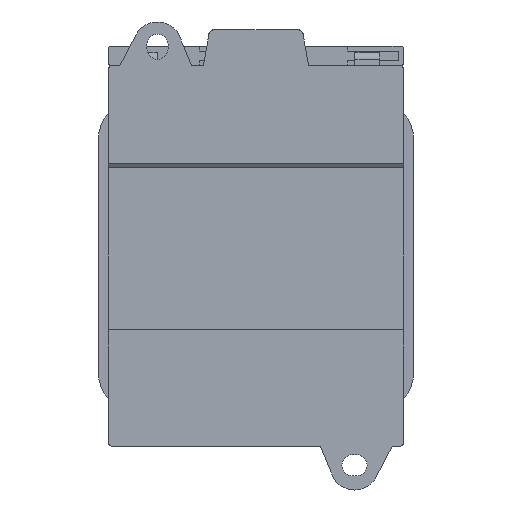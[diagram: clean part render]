
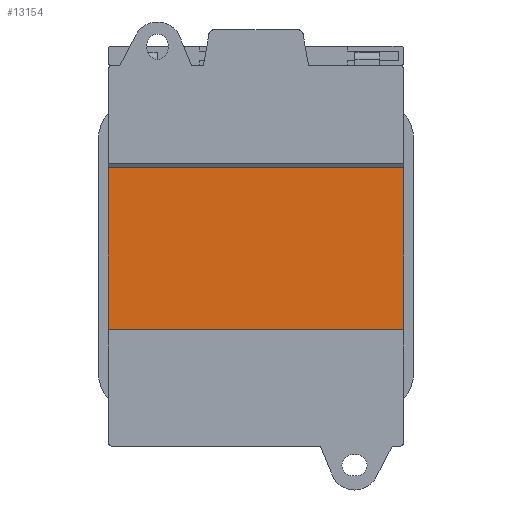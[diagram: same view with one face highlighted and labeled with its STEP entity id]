
A CAD part, front view. The second image highlights one B-rep face of the part: STEP entity #13154.
In plain terms, the highlighted planar face has unit normal (0, -1, 0).
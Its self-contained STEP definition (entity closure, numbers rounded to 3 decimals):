
#60 = DIRECTION ( 'NONE',  ( 0., 0., 1. ) ) ;
#149 = CARTESIAN_POINT ( 'NONE',  ( 30., 3.997, -17.5 ) ) ;
#431 = ORIENTED_EDGE ( 'NONE', *, *, #4827, .F. ) ;
#458 = DIRECTION ( 'NONE',  ( 1., 0., 0. ) ) ;
#1197 = VERTEX_POINT ( 'NONE', #4726 ) ;
#2672 = LINE ( 'NONE', #12453, #13940 ) ;
#3535 = CARTESIAN_POINT ( 'NONE',  ( -45., 3.997, -17.5 ) ) ;
#3788 = VERTEX_POINT ( 'NONE', #149 ) ;
#3968 = LINE ( 'NONE', #12259, #9101 ) ;
#4628 = AXIS2_PLACEMENT_3D ( 'NONE', #9826, #6569, #60 ) ;
#4726 = CARTESIAN_POINT ( 'NONE',  ( -30., 3.997, 17.9 ) ) ;
#4729 = CARTESIAN_POINT ( 'NONE',  ( 30., 3.997, 17.9 ) ) ;
#4827 = EDGE_CURVE ( 'NONE', #13354, #3788, #3968, .T. ) ;
#6188 = EDGE_CURVE ( 'NONE', #1197, #11301, #11119, .T. ) ;
#6515 = EDGE_LOOP ( 'NONE', ( #12349, #7990, #8389, #431 ) ) ;
#6569 = DIRECTION ( 'NONE',  ( 0., 1., 0. ) ) ;
#7990 = ORIENTED_EDGE ( 'NONE', *, *, #6188, .T. ) ;
#8389 = ORIENTED_EDGE ( 'NONE', *, *, #8897, .T. ) ;
#8882 = CARTESIAN_POINT ( 'NONE',  ( -30., 3.997, 19.2 ) ) ;
#8897 = EDGE_CURVE ( 'NONE', #11301, #3788, #11062, .T. ) ;
#9101 = VECTOR ( 'NONE', #13326, 1000. ) ;
#9390 = FACE_OUTER_BOUND ( 'NONE', #6515, .T. ) ;
#9645 = EDGE_CURVE ( 'NONE', #1197, #13354, #2672, .T. ) ;
#9826 = CARTESIAN_POINT ( 'NONE',  ( -45., 3.997, 17.9 ) ) ;
#10415 = VECTOR ( 'NONE', #11059, 1000. ) ;
#10696 = VECTOR ( 'NONE', #12263, 1000. ) ;
#10921 = PLANE ( 'NONE',  #4628 ) ;
#11059 = DIRECTION ( 'NONE',  ( 0., 0., -1. ) ) ;
#11062 = LINE ( 'NONE', #3535, #10696 ) ;
#11119 = LINE ( 'NONE', #8882, #10415 ) ;
#11301 = VERTEX_POINT ( 'NONE', #11657 ) ;
#11657 = CARTESIAN_POINT ( 'NONE',  ( -30., 3.997, -17.5 ) ) ;
#12259 = CARTESIAN_POINT ( 'NONE',  ( 30., 3.997, 19.2 ) ) ;
#12263 = DIRECTION ( 'NONE',  ( 1., 0., 0. ) ) ;
#12349 = ORIENTED_EDGE ( 'NONE', *, *, #9645, .F. ) ;
#12453 = CARTESIAN_POINT ( 'NONE',  ( -45., 3.997, 17.9 ) ) ;
#13154 = ADVANCED_FACE ( 'NONE', ( #9390 ), #10921, .F. ) ;
#13326 = DIRECTION ( 'NONE',  ( 0., 0., -1. ) ) ;
#13354 = VERTEX_POINT ( 'NONE', #4729 ) ;
#13940 = VECTOR ( 'NONE', #458, 1000. ) ;
